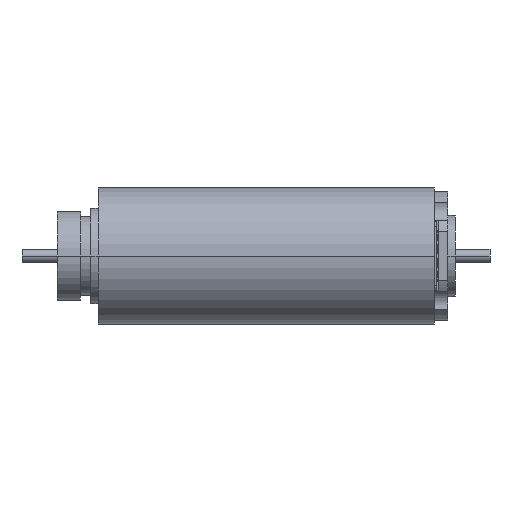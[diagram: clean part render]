
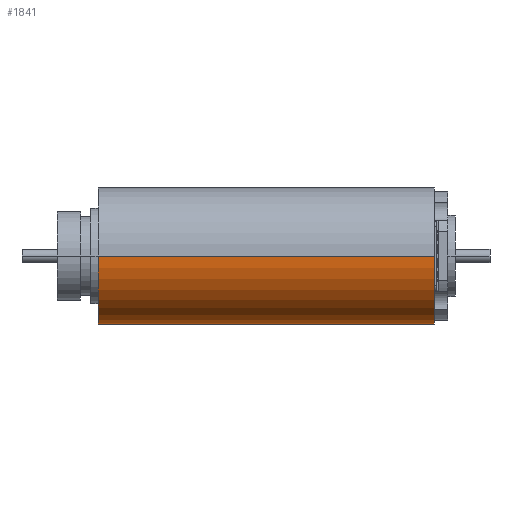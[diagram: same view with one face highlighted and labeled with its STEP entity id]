
A CAD part, front view. The second image highlights one B-rep face of the part: STEP entity #1841.
In plain terms, the highlighted cylindrical face has radius 5 mm (diameter 10 mm), a partial arc.
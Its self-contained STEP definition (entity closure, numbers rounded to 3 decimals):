
#267=DIRECTION('',(-1.,0.,0.));
#268=VECTOR('',#267,24.7);
#269=CARTESIAN_POINT('',(30.3,5.,0.));
#270=LINE('',#269,#268);
#274=DIRECTION('',(-1.,0.,0.));
#275=VECTOR('',#274,24.7);
#276=CARTESIAN_POINT('',(30.3,-5.,0.));
#277=LINE('',#276,#275);
#281=CARTESIAN_POINT('',(30.3,0.,0.));
#282=DIRECTION('',(-1.,0.,0.));
#283=DIRECTION('',(0.,1.,0.));
#284=AXIS2_PLACEMENT_3D('',#281,#282,#283);
#305=CARTESIAN_POINT('',(5.6,0.,0.));
#306=DIRECTION('',(-1.,0.,0.));
#307=DIRECTION('',(0.,1.,0.));
#308=AXIS2_PLACEMENT_3D('',#305,#306,#307);
#1397=CARTESIAN_POINT('',(30.3,5.,0.));
#1398=CARTESIAN_POINT('',(5.6,5.,0.));
#1399=VERTEX_POINT('',#1397);
#1400=VERTEX_POINT('',#1398);
#1425=CARTESIAN_POINT('',(30.3,-5.,0.));
#1426=CARTESIAN_POINT('',(5.6,-5.,0.));
#1427=VERTEX_POINT('',#1425);
#1428=VERTEX_POINT('',#1426);
#1827=CARTESIAN_POINT('',(-1.72,0.,0.));
#1828=DIRECTION('',(1.,0.,0.));
#1829=DIRECTION('',(0.,-1.,0.));
#1830=AXIS2_PLACEMENT_3D('',#1827,#1828,#1829);
#1831=CYLINDRICAL_SURFACE('',#1830,5.);
#1833=ORIENTED_EDGE('',*,*,#1832,.T.);
#1835=ORIENTED_EDGE('',*,*,#1834,.T.);
#1837=ORIENTED_EDGE('',*,*,#1836,.F.);
#1838=ORIENTED_EDGE('',*,*,#1797,.F.);
#1839=EDGE_LOOP('',(#1833,#1835,#1837,#1838));
#1840=FACE_OUTER_BOUND('',#1839,.F.);
#1841=ADVANCED_FACE('',(#1840),#1831,.T.);
#285=CIRCLE('',#284,5.);
#309=CIRCLE('',#308,5.);
#1797=EDGE_CURVE('',#1399,#1427,#285,.T.);
#1832=EDGE_CURVE('',#1399,#1400,#270,.T.);
#1834=EDGE_CURVE('',#1400,#1428,#309,.T.);
#1836=EDGE_CURVE('',#1427,#1428,#277,.T.);
